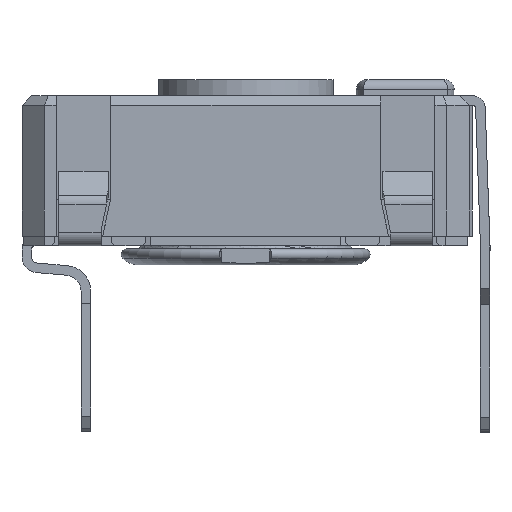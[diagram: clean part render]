
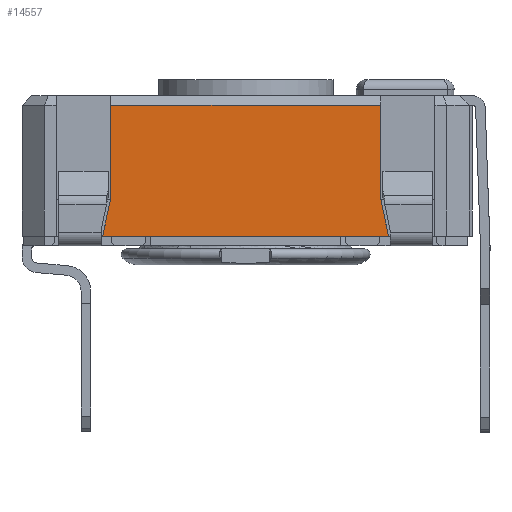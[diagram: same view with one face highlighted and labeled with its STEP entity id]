
A CAD part, left-side view. The second image highlights one B-rep face of the part: STEP entity #14557.
In plain terms, the highlighted planar face has unit normal (-1, 0, 0).
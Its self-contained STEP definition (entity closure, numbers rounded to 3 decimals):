
#1249=FACE_OUTER_BOUND('',#2000,.T.);
#2000=EDGE_LOOP('',(#11882,#11883,#11884,#11885,#11886,#11887));
#2543=LINE('',#20598,#4125);
#3161=LINE('',#22493,#4743);
#3165=LINE('',#22500,#4747);
#3513=LINE('',#23247,#5095);
#3518=LINE('',#23255,#5100);
#3519=LINE('',#23257,#5101);
#4125=VECTOR('',#16572,10.);
#4743=VECTOR('',#18080,10.);
#4747=VECTOR('',#18086,10.);
#5095=VECTOR('',#18818,10.);
#5100=VECTOR('',#18825,10.);
#5101=VECTOR('',#18828,10.);
#5646=VERTEX_POINT('',#20595);
#5647=VERTEX_POINT('',#20597);
#6236=VERTEX_POINT('',#22490);
#6237=VERTEX_POINT('',#22492);
#6239=VERTEX_POINT('',#22498);
#6432=VERTEX_POINT('',#23253);
#7086=EDGE_CURVE('',#5646,#5647,#2543,.T.);
#7922=EDGE_CURVE('',#6236,#6237,#3161,.T.);
#7926=EDGE_CURVE('',#6236,#6239,#3165,.T.);
#8298=EDGE_CURVE('',#5647,#6239,#3513,.T.);
#8303=EDGE_CURVE('',#6432,#5646,#3518,.T.);
#8304=EDGE_CURVE('',#6432,#6237,#3519,.T.);
#11882=ORIENTED_EDGE('',*,*,#7922,.F.);
#11883=ORIENTED_EDGE('',*,*,#7926,.T.);
#11884=ORIENTED_EDGE('',*,*,#8298,.F.);
#11885=ORIENTED_EDGE('',*,*,#7086,.F.);
#11886=ORIENTED_EDGE('',*,*,#8303,.F.);
#11887=ORIENTED_EDGE('',*,*,#8304,.T.);
#13160=PLANE('',#15571);
#14557=ADVANCED_FACE('',(#1249),#13160,.T.);
#15571=AXIS2_PLACEMENT_3D('',#23291,#18874,#18875);
#16572=DIRECTION('',(0.,1.,0.));
#18080=DIRECTION('',(0.,-1.,0.));
#18086=DIRECTION('',(0.,0.,-1.));
#18818=DIRECTION('',(0.,-0.208,0.978));
#18825=DIRECTION('',(0.,-0.208,-0.978));
#18828=DIRECTION('',(0.,0.,1.));
#18874=DIRECTION('center_axis',(-1.,0.,0.));
#18875=DIRECTION('ref_axis',(0.,0.,1.));
#20595=CARTESIAN_POINT('',(-28.215,10.179,0.));
#20597=CARTESIAN_POINT('',(-28.215,19.129,0.));
#20598=CARTESIAN_POINT('',(-28.215,8.354,0.));
#22490=CARTESIAN_POINT('',(-28.215,18.879,4.1));
#22492=CARTESIAN_POINT('',(-28.215,10.429,4.1));
#22493=CARTESIAN_POINT('',(-28.215,11.504,4.1));
#22498=CARTESIAN_POINT('',(-28.215,18.879,1.176));
#22500=CARTESIAN_POINT('',(-28.215,18.879,0.));
#23247=CARTESIAN_POINT('',(-28.215,19.129,0.));
#23253=CARTESIAN_POINT('',(-28.215,10.429,1.176));
#23255=CARTESIAN_POINT('',(-28.215,10.429,1.176));
#23257=CARTESIAN_POINT('',(-28.215,10.429,0.));
#23291=CARTESIAN_POINT('Origin',(-28.215,8.354,0.));
